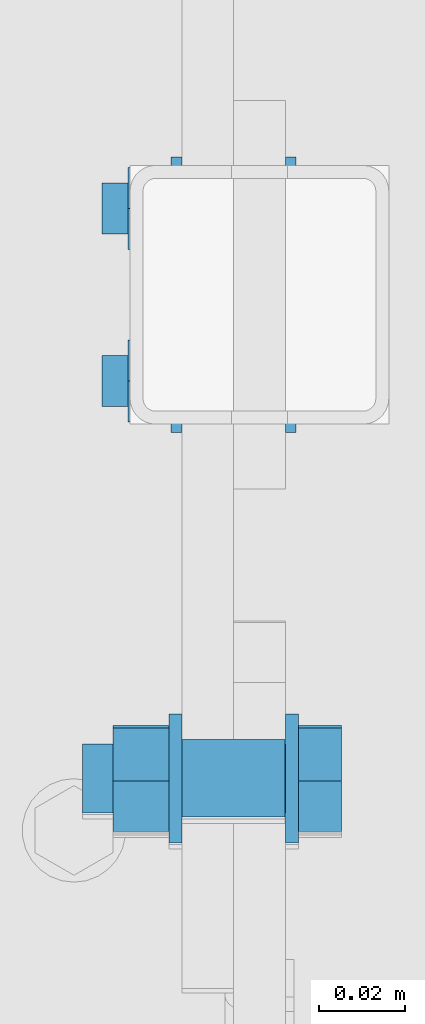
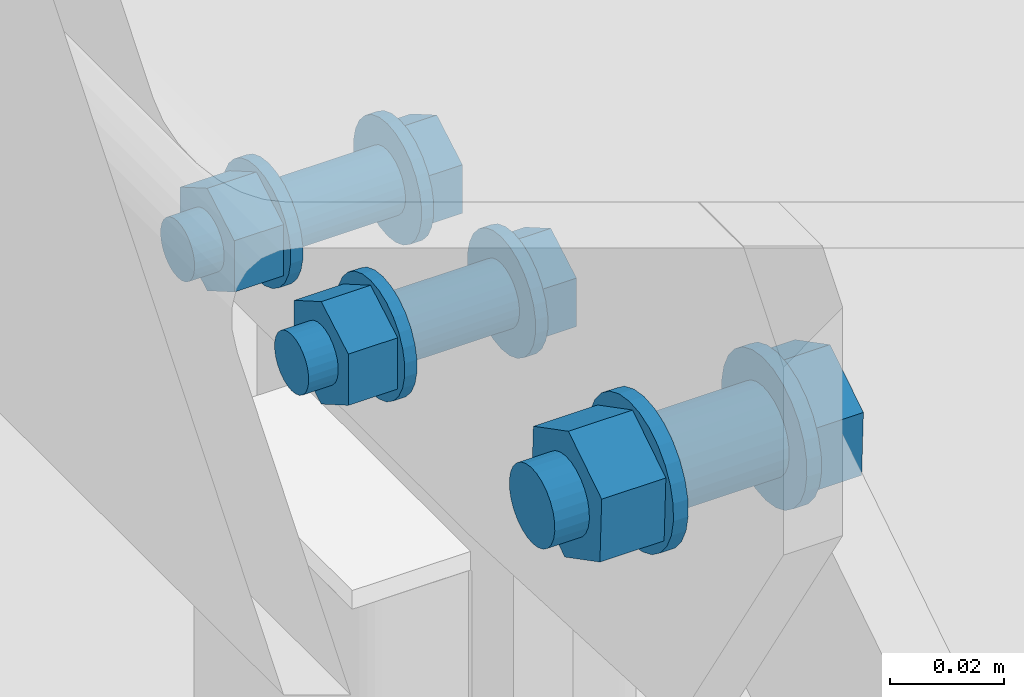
# One storey, part 234 of 271: 2 mechanical fasteners, 2 elements without a shape of their own.
"""IFC2X3 building model written with IfcOpenShell, lengths in millimetres."""

from ifc_helpers import new_model, si_unit, frame, origin_with_axes, origin_2d_with_axis, place, context, subcontext, project, spatial, polyline, circle, outline, extrude, source, transform, mapped, material, type_object, element, aggregate, save


model = new_model("IFC2X3")

# Units and contexts
model_context = context("Model", 3, precision=1e-05, world=origin_with_axes())
body_context = subcontext(model_context, "Body", "Model", "MODEL_VIEW")
ifc_project = project(units=[si_unit("LENGTHUNIT", "METRE", prefix="MILLI"), si_unit("AREAUNIT", "SQUARE_METRE"), si_unit("VOLUMEUNIT", "CUBIC_METRE"), si_unit("MASSUNIT", "GRAM", prefix="KILO"), si_unit("TIMEUNIT", "SECOND"), si_unit("PLANEANGLEUNIT", "RADIAN"), si_unit("SOLIDANGLEUNIT", "STERADIAN"), si_unit("THERMODYNAMICTEMPERATUREUNIT", "DEGREE_CELSIUS"), si_unit("LUMINOUSINTENSITYUNIT", "LUMEN")], contexts=[model_context])

# Site, building, storey
site_placement = place(None, origin_with_axes())
site = spatial("IfcSite", under=ifc_project, at=site_placement, Name="Undefined", CompositionType="ELEMENT")
building_placement = place(site_placement, origin_with_axes())
building = spatial("IfcBuilding", under=site, at=building_placement, Name="Undefined", CompositionType="ELEMENT")
storey_placement = place(building_placement, origin_with_axes())
storey = spatial("IfcBuildingStorey", under=building, at=storey_placement, Name="Undefined", CompositionType="ELEMENT", Elevation=0.0)

# Assembly, mechanical fastener
assembly_1_placement = place(storey_placement, origin_with_axes())
assembly_1 = element("IfcElementAssembly", 1, at=assembly_1_placement, inside=storey, AssemblyPlace="NOTDEFINED", PredefinedType="RIGID_FRAME")
ifc_material = material(Name="Undefined")
mechanical_fastener_type = type_object("IfcMechanicalFastenerType", Name="Bolt assembly")
shared_shape_1 = source(origin_with_axes(), body_context, "Body", "SweptSolid", [
    extrude(circle(Radius=9.0, at=origin_2d_with_axis()), frame((0.0, -6.1, 0.0), z_axis=(0.0, 1.0, 0.0), x_axis=(1.0, 0.0, 0.0)), (0.0, 0.0, 1.0), 12.1),
    extrude(circle(Radius=9.0, at=origin_2d_with_axis()), frame((0.0, -17.9, 0.0), z_axis=(0.0, 1.0, 0.0), x_axis=(1.0, 0.0, 0.0)), (0.0, 0.0, 1.0), 12.0),
    extrude(outline(polyline([(13.85640646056, 0.0), (6.92820323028, 12.0000000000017), (-6.92820323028, 12.0000000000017), (-13.85640646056, 0.0), (-6.92820323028, -12.0000000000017), (6.92820323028, -12.0000000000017), (13.85640646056, 0.0)])), frame((0.0, -31.0, 0.0), z_axis=(0.0, 1.0, 0.0), x_axis=(1.0, 0.0, 0.0)), (0.0, 0.0, 1.0), 10.0),
    extrude(circle(Radius=8.0, at=origin_2d_with_axis()), frame((0.0, -21.0, 0.0), z_axis=(0.0, 1.0, 0.0), x_axis=(1.0, 0.0, 0.0)), (0.0, 0.0, 1.0), 50.0),
    extrude(circle(Radius=15.0, at=origin_2d_with_axis()), frame((0.0, -21.0, 0.0), z_axis=(0.0, 1.0, 0.0), x_axis=(1.0, 0.0, 0.0)), (0.0, 0.0, 1.0), 3.0),
    extrude(circle(Radius=15.0, at=origin_2d_with_axis()), frame((0.0, 6.0, 0.0), z_axis=(0.0, 1.0, 0.0), x_axis=(1.0, 0.0, 0.0)), (0.0, 0.0, 1.0), 3.0),
    extrude(outline(polyline([(13.85640646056, 0.0), (6.92820323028, 12.0000000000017), (-6.92820323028, 12.0000000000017), (-13.85640646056, 0.0), (-6.92820323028, -12.0000000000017), (6.92820323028, -12.0000000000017), (13.85640646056, 0.0)])), frame((0.0, 9.0, 0.0), z_axis=(0.0, 1.0, 0.0), x_axis=(1.0, 0.0, 0.0)), (0.0, 0.0, 1.0), 13.0),
])
mechanical_fastener_1_placement = place(assembly_1_placement, frame((87.0, 2067.06451400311, 1292.71200439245), z_axis=(0.0, 0.538389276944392, -0.842696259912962), x_axis=(0.0, -0.842696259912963, -0.538389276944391)))
mechanical_fastener_1 = element("IfcMechanicalFastener", 2, at=mechanical_fastener_1_placement, type_object=mechanical_fastener_type, material=ifc_material, Name="Bolt assembly", NominalDiameter=16.0, NominalLength=50.0, context=body_context, shape_type="MappedRepresentation", body=[
    mapped(shared_shape_1, transform((0.0, 0.0, 0.0))),
])
aggregate(assembly_1, [mechanical_fastener_1])

assembly_2_placement = place(storey_placement, origin_with_axes())
assembly_2 = element("IfcElementAssembly", 3, at=assembly_2_placement, inside=storey, AssemblyPlace="NOTDEFINED", PredefinedType="RIGID_FRAME")
shared_shape_2 = source(origin_with_axes(), body_context, "Body", "SweptSolid", [
    extrude(circle(Radius=6.5, at=origin_2d_with_axis()), frame((0.0, -6.1, 0.0), z_axis=(0.0, 1.0, 0.0), x_axis=(1.0, 0.0, 0.0)), (0.0, 0.0, 1.0), 12.1),
    extrude(circle(Radius=6.5, at=origin_2d_with_axis()), frame((0.0, -17.9, 0.0), z_axis=(0.0, 1.0, 0.0), x_axis=(1.0, 0.0, 0.0)), (0.0, 0.0, 1.0), 12.0),
    extrude(outline(polyline([(10.39230484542, 0.0), (5.19615242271, 9.00000000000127), (-5.19615242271, 9.00000000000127), (-10.39230484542, 0.0), (-5.19615242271, -9.00000000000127), (5.19615242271, -9.00000000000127), (10.39230484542, 0.0)])), frame((0.0, -28.0, 0.0), z_axis=(0.0, 1.0, 0.0), x_axis=(1.0, 0.0, 0.0)), (0.0, 0.0, 1.0), 7.5),
    extrude(circle(Radius=6.0, at=origin_2d_with_axis()), frame((0.0, -20.5, 0.0), z_axis=(0.0, 1.0, 0.0), x_axis=(1.0, 0.0, 0.0)), (0.0, 0.0, 1.0), 45.0),
    extrude(circle(Radius=12.0, at=origin_2d_with_axis()), frame((0.0, -20.5, 0.0), z_axis=(0.0, 1.0, 0.0), x_axis=(1.0, 0.0, 0.0)), (0.0, 0.0, 1.0), 2.5),
    extrude(circle(Radius=12.0, at=origin_2d_with_axis()), frame((0.0, 6.0, 0.0), z_axis=(0.0, 1.0, 0.0), x_axis=(1.0, 0.0, 0.0)), (0.0, 0.0, 1.0), 2.5),
    extrude(outline(polyline([(10.96965511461, 0.0), (5.484827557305, 9.50000000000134), (-5.484827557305, 9.50000000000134), (-10.96965511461, 0.0), (-5.484827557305, -9.50000000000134), (5.484827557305, -9.50000000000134), (10.96965511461, 0.0)])), frame((0.0, 8.5, 0.0), z_axis=(0.0, 1.0, 0.0), x_axis=(1.0, 0.0, 0.0)), (0.0, 0.0, 1.0), 10.0),
])
mechanical_fastener_2_placement = place(assembly_2_placement, frame((87.0, 2179.19355050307, 1265.87220454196), z_axis=(0.0, 1.0, 0.0), x_axis=(0.0, 0.0, -1.0)))
mechanical_fastener_2 = element("IfcMechanicalFastener", 4, at=mechanical_fastener_2_placement, type_object=mechanical_fastener_type, material=ifc_material, Name="Bolt assembly", NominalDiameter=12.0, NominalLength=45.0, context=body_context, shape_type="MappedRepresentation", body=[
    mapped(shared_shape_2, transform((0.0, 0.0, -20.0))),
    mapped(shared_shape_2, transform((0.0, 0.0, 20.0))),
])
aggregate(assembly_2, [mechanical_fastener_2])

save(model, "model.ifc")
